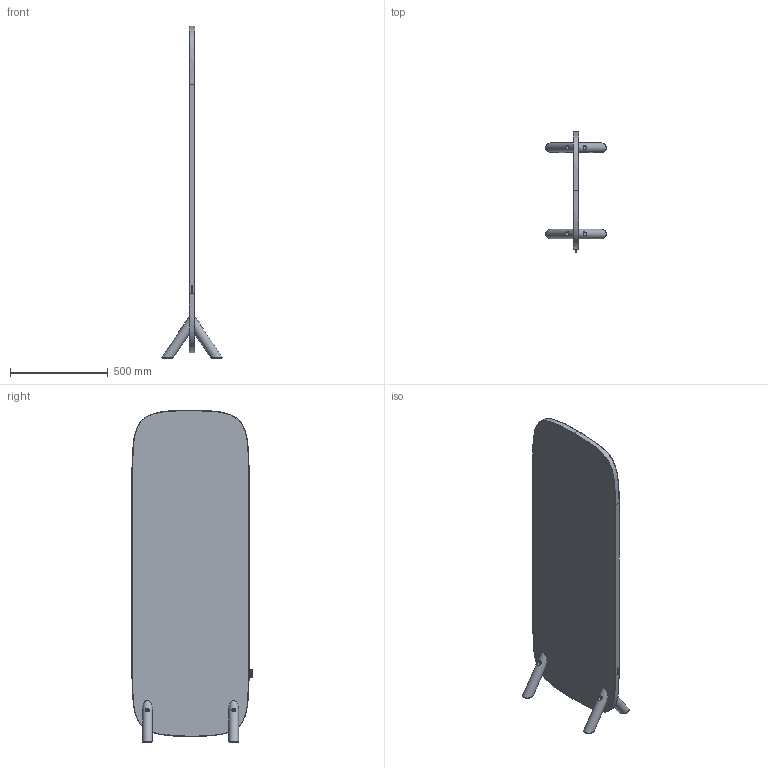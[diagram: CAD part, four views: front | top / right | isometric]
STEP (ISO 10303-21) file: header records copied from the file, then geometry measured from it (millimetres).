
FILE_DESCRIPTION(/* description */ ('','CAx-IF Rec.Pracs.---Representation and Presentation of Product Manufacturing Information (PMI)---4.0---2014-10-13'),/* implementation_level */ '2;1');
FILE_NAME(/* name */ 'SHADE_TIMBER_XS_STEP.step',/* time_stamp */ '2025-01-14T15:33:42+01:00',/* author */ (''),/* organization */ (''),/* preprocessor_version */ 'ST-DEVELOPER v20',/* originating_system */ 'Autodesk Translation Framework v13.20.0.188',/* authorisation */ '');
FILE_SCHEMA (('AP242_MANAGED_MODEL_BASED_3D_ENGINEERING_MIM_LF { 1 0 10303 442 1 1 4 }'));
Length unit declared in the file: millimetre
Products named in the file (8): 1.0_S_TIMBER_XS; Components; 1.1_S_TIMBER_XS; 1.1.3_S_TIMBER_XS; Štítek SLB v3; 1.2_S_TIMBER_XS;   _1; SHADE TIMBER/HEAVY_noha Ø 50MM v12
Assembly tree (13 placements, depth 4):
  1.0_S_TIMBER_XS
    Components
      1.1_S_TIMBER_XS
        1.1.3_S_TIMBER_XS
        Štítek SLB v3
      SHADE TIMBER/HEAVY_noha Ø 50MM v12  x4
      1.2_S_TIMBER_XS
          _1  x4
Bounding box: 310.4 x 615 x 1700 mm (x, y, z)
Volume: 3615904.7 mm3; surface area: 4259220.5 mm2
Topology: 30 solids, 30 shells, 466 faces, 1128 edges, 748 vertices
Faces by surface type: plane 226, bspline 184, cylinder 48, cone 8
Full cylindrical faces by diameter (mm): 5.035 x4, 8 x12, 8.3 x8, 9 x4, 9.2 x4, 17 x4, 20 x4, 50 x4
Entity records: 13902 total; most frequent: CARTESIAN_POINT 5056, ORIENTED_EDGE 1968, DIRECTION 1418, EDGE_CURVE 984, VERTEX_POINT 655, LINE 572, VECTOR 572, EDGE_LOOP 429
